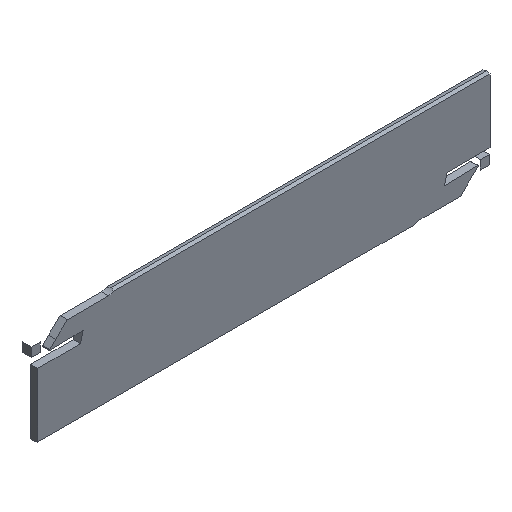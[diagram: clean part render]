
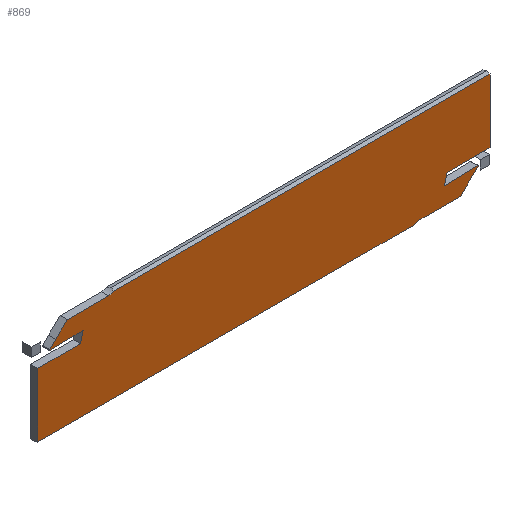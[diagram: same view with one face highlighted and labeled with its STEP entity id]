
A CAD part, isometric view. The second image highlights one B-rep face of the part: STEP entity #869.
In plain terms, the highlighted planar face has unit normal (0, -1, 0).
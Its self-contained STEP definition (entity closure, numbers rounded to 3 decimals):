
#254=CARTESIAN_POINT('Vertex',(16.066,-1.19,0.423)) ;
#257=CARTESIAN_POINT('Line Origine',(10.535,-1.19,0.249)) ;
#261=CARTESIAN_POINT('Vertex',(5.004,-1.19,0.076)) ;
#294=CARTESIAN_POINT('Vertex',(15.203,-1.19,-3.034)) ;
#297=CARTESIAN_POINT('Line Origine',(15.634,-1.19,-1.306)) ;
#319=CARTESIAN_POINT('Line Origine',(88.595,-1.19,6.532)) ;
#323=CARTESIAN_POINT('Vertex',(151.,-1.19,6.532)) ;
#325=CARTESIAN_POINT('Vertex',(26.191,-1.19,6.532)) ;
#373=CARTESIAN_POINT('Vertex',(1.,-1.19,-3.034)) ;
#376=CARTESIAN_POINT('Line Origine',(8.101,-1.19,-3.034)) ;
#412=CARTESIAN_POINT('Vertex',(24.558,-1.19,6.049)) ;
#415=CARTESIAN_POINT('Axis2P3D Location',(24.558,-1.19,9.049)) ;
#463=CARTESIAN_POINT('Vertex',(10.808,-1.19,6.049)) ;
#466=CARTESIAN_POINT('Line Origine',(17.683,-1.19,6.049)) ;
#494=CARTESIAN_POINT('Vertex',(7.006,-1.19,2.367)) ;
#497=CARTESIAN_POINT('Line Origine',(8.907,-1.19,4.208)) ;
#520=CARTESIAN_POINT('Vertex',(5.014,-1.19,0.438)) ;
#523=CARTESIAN_POINT('Line Origine',(6.01,-1.19,1.402)) ;
#546=CARTESIAN_POINT('Vertex',(4.967,-1.19,0.392)) ;
#549=CARTESIAN_POINT('Line Origine',(4.99,-1.19,0.415)) ;
#589=CARTESIAN_POINT('Vertex',(1.,-1.19,-24.192)) ;
#592=CARTESIAN_POINT('Line Origine',(1.,-1.19,-13.613)) ;
#615=CARTESIAN_POINT('Axis2P3D Location',(5.106,-1.19,0.248)) ;
#721=CARTESIAN_POINT('Line Origine',(151.,-1.19,-4.047)) ;
#725=CARTESIAN_POINT('Vertex',(151.,-1.19,-14.626)) ;
#753=CARTESIAN_POINT('Vertex',(125.809,-1.19,-24.192)) ;
#758=CARTESIAN_POINT('Line Origine',(63.405,-1.19,-24.192)) ;
#795=CARTESIAN_POINT('Axis2P3D Location',(0.,-1.19,0.)) ;
#800=CARTESIAN_POINT('Axis2P3D Location',(127.442,-1.19,-26.709)) ;
#804=CARTESIAN_POINT('Vertex',(127.442,-1.19,-23.709)) ;
#807=CARTESIAN_POINT('Line Origine',(134.317,-1.19,-23.709)) ;
#811=CARTESIAN_POINT('Vertex',(141.192,-1.19,-23.709)) ;
#814=CARTESIAN_POINT('Line Origine',(144.113,-1.19,-20.881)) ;
#818=CARTESIAN_POINT('Vertex',(147.033,-1.19,-18.052)) ;
#821=CARTESIAN_POINT('Axis2P3D Location',(146.894,-1.19,-17.908)) ;
#825=CARTESIAN_POINT('Vertex',(146.996,-1.19,-17.736)) ;
#828=CARTESIAN_POINT('Line Origine',(141.465,-1.19,-17.909)) ;
#832=CARTESIAN_POINT('Vertex',(135.934,-1.19,-18.083)) ;
#835=CARTESIAN_POINT('Line Origine',(136.366,-1.19,-16.354)) ;
#839=CARTESIAN_POINT('Vertex',(136.797,-1.19,-14.626)) ;
#842=CARTESIAN_POINT('Line Origine',(143.899,-1.19,-14.626)) ;
#258=DIRECTION('Vector Direction',(-1.,0.,-0.031)) ;
#298=DIRECTION('Vector Direction',(0.242,0.,0.97)) ;
#320=DIRECTION('Vector Direction',(-1.,0.,0.)) ;
#377=DIRECTION('Vector Direction',(-1.,0.,0.)) ;
#416=DIRECTION('Axis2P3D Direction',(0.,1.,0.)) ;
#467=DIRECTION('Vector Direction',(1.,0.,0.)) ;
#498=DIRECTION('Vector Direction',(0.718,0.,0.696)) ;
#524=DIRECTION('Vector Direction',(0.718,0.,0.696)) ;
#550=DIRECTION('Vector Direction',(0.718,0.,0.696)) ;
#593=DIRECTION('Vector Direction',(0.,0.,1.)) ;
#616=DIRECTION('Axis2P3D Direction',(0.,1.,0.)) ;
#722=DIRECTION('Vector Direction',(0.,0.,-1.)) ;
#759=DIRECTION('Vector Direction',(-1.,0.,0.)) ;
#796=DIRECTION('Axis2P3D Direction',(0.,1.,0.)) ;
#797=DIRECTION('Axis2P3D XDirection',(-1.,0.,0.)) ;
#801=DIRECTION('Axis2P3D Direction',(0.,1.,0.)) ;
#808=DIRECTION('Vector Direction',(-1.,0.,0.)) ;
#815=DIRECTION('Vector Direction',(-0.718,0.,-0.696)) ;
#822=DIRECTION('Axis2P3D Direction',(0.,1.,0.)) ;
#829=DIRECTION('Vector Direction',(1.,0.,0.031)) ;
#836=DIRECTION('Vector Direction',(-0.242,0.,-0.97)) ;
#843=DIRECTION('Vector Direction',(1.,0.,0.)) ;
#417=AXIS2_PLACEMENT_3D('Circle Axis2P3D',#415,#416,$) ;
#617=AXIS2_PLACEMENT_3D('Circle Axis2P3D',#615,#616,$) ;
#798=AXIS2_PLACEMENT_3D('Plane Axis2P3D',#795,#796,#797) ;
#802=AXIS2_PLACEMENT_3D('Circle Axis2P3D',#800,#801,$) ;
#823=AXIS2_PLACEMENT_3D('Circle Axis2P3D',#821,#822,$) ;
#848=ORIENTED_EDGE('',*,*,#806,.T.) ;
#849=ORIENTED_EDGE('',*,*,#813,.F.) ;
#850=ORIENTED_EDGE('',*,*,#820,.F.) ;
#851=ORIENTED_EDGE('',*,*,#827,.F.) ;
#852=ORIENTED_EDGE('',*,*,#834,.F.) ;
#853=ORIENTED_EDGE('',*,*,#841,.F.) ;
#854=ORIENTED_EDGE('',*,*,#846,.T.) ;
#855=ORIENTED_EDGE('',*,*,#727,.F.) ;
#856=ORIENTED_EDGE('',*,*,#327,.T.) ;
#857=ORIENTED_EDGE('',*,*,#419,.T.) ;
#858=ORIENTED_EDGE('',*,*,#470,.F.) ;
#859=ORIENTED_EDGE('',*,*,#501,.F.) ;
#860=ORIENTED_EDGE('',*,*,#527,.F.) ;
#861=ORIENTED_EDGE('',*,*,#553,.F.) ;
#862=ORIENTED_EDGE('',*,*,#619,.F.) ;
#863=ORIENTED_EDGE('',*,*,#263,.F.) ;
#864=ORIENTED_EDGE('',*,*,#301,.F.) ;
#865=ORIENTED_EDGE('',*,*,#380,.T.) ;
#866=ORIENTED_EDGE('',*,*,#596,.F.) ;
#867=ORIENTED_EDGE('',*,*,#762,.F.) ;
#259=VECTOR('Line Direction',#258,1.) ;
#299=VECTOR('Line Direction',#298,1.) ;
#321=VECTOR('Line Direction',#320,1.) ;
#378=VECTOR('Line Direction',#377,1.) ;
#468=VECTOR('Line Direction',#467,1.) ;
#499=VECTOR('Line Direction',#498,1.) ;
#525=VECTOR('Line Direction',#524,1.) ;
#551=VECTOR('Line Direction',#550,1.) ;
#594=VECTOR('Line Direction',#593,1.) ;
#723=VECTOR('Line Direction',#722,1.) ;
#760=VECTOR('Line Direction',#759,1.) ;
#809=VECTOR('Line Direction',#808,1.) ;
#816=VECTOR('Line Direction',#815,1.) ;
#830=VECTOR('Line Direction',#829,1.) ;
#837=VECTOR('Line Direction',#836,1.) ;
#844=VECTOR('Line Direction',#843,1.) ;
#869=ADVANCED_FACE('',(#868),#799,.F.) ;
#418=CIRCLE('generated circle',#417,3.) ;
#618=CIRCLE('generated circle',#617,0.2) ;
#803=CIRCLE('generated circle',#802,3.) ;
#824=CIRCLE('generated circle',#823,0.2) ;
#263=EDGE_CURVE('',#255,#262,#260,.T.) ;
#301=EDGE_CURVE('',#295,#255,#300,.T.) ;
#327=EDGE_CURVE('',#324,#326,#322,.T.) ;
#380=EDGE_CURVE('',#295,#374,#379,.T.) ;
#419=EDGE_CURVE('',#326,#413,#418,.T.) ;
#470=EDGE_CURVE('',#464,#413,#469,.T.) ;
#501=EDGE_CURVE('',#495,#464,#500,.T.) ;
#527=EDGE_CURVE('',#521,#495,#526,.T.) ;
#553=EDGE_CURVE('',#547,#521,#552,.T.) ;
#596=EDGE_CURVE('',#590,#374,#595,.T.) ;
#619=EDGE_CURVE('',#262,#547,#618,.T.) ;
#727=EDGE_CURVE('',#324,#726,#724,.T.) ;
#762=EDGE_CURVE('',#754,#590,#761,.T.) ;
#806=EDGE_CURVE('',#754,#805,#803,.T.) ;
#813=EDGE_CURVE('',#812,#805,#810,.T.) ;
#820=EDGE_CURVE('',#819,#812,#817,.T.) ;
#827=EDGE_CURVE('',#826,#819,#824,.T.) ;
#834=EDGE_CURVE('',#833,#826,#831,.T.) ;
#841=EDGE_CURVE('',#840,#833,#838,.T.) ;
#846=EDGE_CURVE('',#840,#726,#845,.T.) ;
#847=EDGE_LOOP('',(#848,#849,#850,#851,#852,#853,#854,#855,#856,#857,#858,#859,#860,#861,#862,#863,#864,#865,#866,#867)) ;
#868=FACE_OUTER_BOUND('',#847,.T.) ;
#260=LINE('Line',#257,#259) ;
#300=LINE('Line',#297,#299) ;
#322=LINE('Line',#319,#321) ;
#379=LINE('Line',#376,#378) ;
#469=LINE('Line',#466,#468) ;
#500=LINE('Line',#497,#499) ;
#526=LINE('Line',#523,#525) ;
#552=LINE('Line',#549,#551) ;
#595=LINE('Line',#592,#594) ;
#724=LINE('Line',#721,#723) ;
#761=LINE('Line',#758,#760) ;
#810=LINE('Line',#807,#809) ;
#817=LINE('Line',#814,#816) ;
#831=LINE('Line',#828,#830) ;
#838=LINE('Line',#835,#837) ;
#845=LINE('Line',#842,#844) ;
#799=PLANE('Plane',#798) ;
#255=VERTEX_POINT('',#254) ;
#262=VERTEX_POINT('',#261) ;
#295=VERTEX_POINT('',#294) ;
#324=VERTEX_POINT('',#323) ;
#326=VERTEX_POINT('',#325) ;
#374=VERTEX_POINT('',#373) ;
#413=VERTEX_POINT('',#412) ;
#464=VERTEX_POINT('',#463) ;
#495=VERTEX_POINT('',#494) ;
#521=VERTEX_POINT('',#520) ;
#547=VERTEX_POINT('',#546) ;
#590=VERTEX_POINT('',#589) ;
#726=VERTEX_POINT('',#725) ;
#754=VERTEX_POINT('',#753) ;
#805=VERTEX_POINT('',#804) ;
#812=VERTEX_POINT('',#811) ;
#819=VERTEX_POINT('',#818) ;
#826=VERTEX_POINT('',#825) ;
#833=VERTEX_POINT('',#832) ;
#840=VERTEX_POINT('',#839) ;
